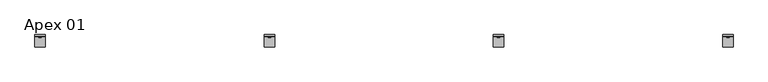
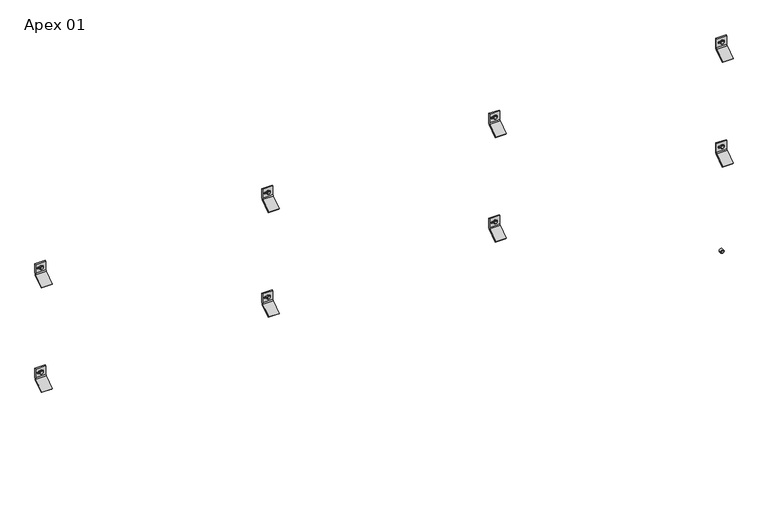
"""IFC4 building model written with IfcOpenShell, lengths in millimetres: plate geometry, Single-Panel-Perforated-Amico_Architectural : Apex 01."""

from ifc_helpers import new_model, si_unit, point, frame, frame_2d, origin, place, context, project, spatial, polyline, circle_curve, trimmed, segment, composite_curve, outline, extrude, source, transform, mapped, element, save
from ifc_brep_helpers import plane_surface, cylinder_surface, revolved_surface, advanced_brep


def apex_01_94d3b953(model_context):
    return source(origin(), model_context, "Body", "SolidModel", [
        extrude(outline(polyline([(1395.4295323, 1252.2820034), (1391.0838197, 1254.7910017), (1391.0838197, 1259.8089983), (1395.4295323, 1262.3179966), (1399.7752448, 1259.8089983), (1399.7752448, 1254.7910017), (1395.4295323, 1252.2820034)])), frame((0.0, -58.7607779, 0.0), z_axis=(0.0, 1.0, 0.0), x_axis=(0.0, 0.0, 1.0)), (0.0, 0.0, 1.0), 11.1357779),
        extrude(outline(composite_curve([segment(trimmed(circle_curve(frame_2d((1395.5228392, 1257.3)), 6.35), [point((1395.5228392, 1263.65))], [point((1395.5228392, 1250.95))], False, "CARTESIAN"), True, "CONTINUOUS"), segment(trimmed(circle_curve(frame_2d((1395.5228392, 1257.3)), 6.35), [point((1395.5228392, 1250.95))], [point((1395.5228392, 1263.65))], False, "CARTESIAN"), True, "CONTINUOUS")], self_intersect=False)), frame((0.0, -57.0817743, 0.0), z_axis=(0.0, 1.0, 0.0), x_axis=(0.0, 0.0, 1.0)), (0.0, 0.0, 1.0), 9.4567743),
        advanced_brep(
        [(1238.25, -47.625, 1378.2802202), (1238.25, -51.2819443, 1370.6181877), (1238.25, -89.5163624, 1343.84616), (1238.25, -92.9330442, 1347.2628418), (1238.25, -54.3526876, 1374.2770983), (1238.25, -52.4002, 1378.2802911), (1238.25, -52.4002, 1412.4729053), (1238.25, -47.625, 1412.4729053), (1276.35, -47.625, 1378.2802202), (1276.35, -47.625, 1412.4729053), (1276.35, -52.4002, 1412.4729053), (1276.35, -52.4002, 1378.2802911), (1276.35, -54.3526876, 1374.2770983), (1276.35, -92.9330442, 1347.2628418), (1276.35, -89.5163624, 1343.84616), (1276.35, -51.2819443, 1370.6181877), (1264.0411889, -52.4002, 1398.4276891), (1264.0411889, -52.4002, 1392.0776891), (1247.8133287, -52.4002, 1392.0776891), (1247.8133287, -52.4002, 1398.4276891), (1264.0411889, -47.625, 1392.0776891), (1264.0411889, -47.625, 1398.4276891), (1247.8133287, -47.625, 1398.4276891), (1247.8133287, -47.625, 1392.0776891)],
        [
            (0, 1, circle_curve(frame((1238.25, -57.4802202, 1378.2802202), z_axis=(-1.0, 0.0, 0.0), x_axis=(0.0, -1.0, 0.0)), 9.8552202)),
            (1, 2),
            (2, 3),
            (3, 4),
            (4, 5, circle_curve(frame((1238.25, -57.4803246, 1378.2802911), z_axis=(1.0, 0.0, 0.0), x_axis=(0.0, -1.0, 0.0)), 5.0801246)),
            (5, 6),
            (6, 7),
            (7, 0),
            (8, 9),
            (9, 10),
            (10, 11),
            (11, 12, circle_curve(frame((1276.35, -57.4803246, 1378.2802911), z_axis=(-1.0, 0.0, 0.0), x_axis=(0.0, -1.0, 0.0)), 5.0801246)),
            (12, 13),
            (13, 14),
            (14, 15),
            (15, 8, circle_curve(frame((1276.35, -57.4802202, 1378.2802202), z_axis=(1.0, 0.0, 0.0), x_axis=(0.0, -1.0, 0.0)), 9.8552202)),
            (4, 12),
            (11, 5),
            (10, 6),
            (16, 17, circle_curve(frame((1264.0411889, -52.4002, 1395.2526891), z_axis=(0.0, 1.0, 0.0), x_axis=(0.0, 0.0, -1.0)), 3.175)),
            (17, 18),
            (18, 19, circle_curve(frame((1247.8133287, -52.4002, 1395.2526891), z_axis=(0.0, 1.0, 0.0), x_axis=(0.0, 0.0, -1.0)), 3.175)),
            (19, 16),
            (9, 7),
            (8, 0),
            (20, 21, circle_curve(frame((1264.0411889, -47.625, 1395.2526891), z_axis=(0.0, -1.0, 0.0), x_axis=(0.0, 0.0, -1.0)), 3.175)),
            (21, 22),
            (22, 23, circle_curve(frame((1247.8133287, -47.625, 1395.2526891), z_axis=(0.0, -1.0, 0.0), x_axis=(0.0, 0.0, -1.0)), 3.175)),
            (23, 20),
            (15, 1),
            (20, 17),
            (16, 21),
            (19, 22),
            (18, 23),
            (14, 2),
            (13, 3),
        ],
        [
            plane_surface(frame((1238.25, -67.3354404, 1378.2802202), z_axis=(-1.0, 0.0, 0.0), x_axis=(0.0, 0.0, 1.0))),
            plane_surface(frame((1276.35, -67.3354404, 1378.2802202), z_axis=(1.0, 0.0, 0.0), x_axis=(0.0, 0.0, -1.0))),
            revolved_surface(polyline([(1276.35, -62.5604492, 1378.2802911), (1238.25, -62.5604492, 1378.2802911)]), (1276.35, -57.4803246, 1378.2802911), (1.0, 0.0, 0.0)),
            plane_surface(frame((1238.25, -52.4002, 1378.2802911), z_axis=(0.0, -1.0, 0.0), x_axis=(1.0, 0.0, 0.0))),
            plane_surface(frame((1238.25, -52.4002, 1412.4729053), z_axis=(0.0, 0.0, 1.0), x_axis=(1.0, 0.0, 0.0))),
            plane_surface(frame((1238.25, -47.625, 1412.4729053), z_axis=(0.0, 1.0, 6.99569853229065e-12), x_axis=(1.0, 0.0, 0.0))),
            cylinder_surface(frame((1276.35, -57.4802202, 1378.2802202), z_axis=(-1.0, 0.0, 0.0), x_axis=(0.0, -1.0, 0.0)), 9.8552202),
            revolved_surface(polyline([(1264.0411889, -52.4002, 1392.0776891), (1264.0411889, -47.625, 1392.0776891)]), (1264.0411889, -25.6669948, 1395.2526891), (0.0, -1.0, 0.0)),
            plane_surface(frame((1264.0411889, -86.677982, 1398.4276891), z_axis=(0.0, 0.0, -1.0), x_axis=(0.0, 1.0, 0.0))),
            revolved_surface(polyline([(1247.8133287, -52.4002, 1392.0776891), (1247.8133287, -47.625, 1392.0776891)]), (1247.8133287, -25.6669948, 1395.2526891), (0.0, -1.0, 0.0)),
            plane_surface(frame((1247.8133287, -86.677982, 1392.0776891), z_axis=(-2.7237720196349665e-11, 0.0, 1.0), x_axis=(0.0, 1.0, 0.0))),
            plane_surface(frame((1238.25, -51.2819443, 1370.6181877), z_axis=(0.0, 0.5735764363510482, -0.8191520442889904), x_axis=(1.0, 0.0, 0.0))),
            plane_surface(frame((1238.25, -89.5163624, 1343.84616), z_axis=(0.0, -0.7071067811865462, -0.7071067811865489), x_axis=(1.0, 0.0, 0.0))),
            plane_surface(frame((1238.25, -92.9330442, 1347.2628418), z_axis=(0.0, -0.5735764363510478, 0.8191520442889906), x_axis=(1.0, 0.0, 0.0))),
        ],
        [
            (0, [[1, 2, 3, 4, 5, 6, 7, 8]]),
            (1, [[9, 10, 11, 12, 13, 14, 15, 16]]),
            (2, [[-5, 17, -12, 18]]),
            (3, [[-6, -18, -11, 19], [20, 21, 22, 23]]),
            (4, [[-7, -19, -10, 24]]),
            (5, [[-8, -24, -9, 25], [26, 27, 28, 29]]),
            (6, [[-1, -25, -16, 30]]),
            (7, [[31, -20, 32, -26]]),
            (8, [[-32, -23, 33, -27]]),
            (9, [[-33, -22, 34, -28]]),
            (10, [[-31, -29, -34, -21]]),
            (11, [[-2, -30, -15, 35]]),
            (12, [[-3, -35, -14, 36]]),
            (13, [[-4, -36, -13, -17]]),
        ],
    ),
        extrude(outline(polyline([(1395.4295323, 414.0820034), (1391.0838197, 416.5910017), (1391.0838197, 421.6089983), (1395.4295323, 424.1179966), (1399.7752448, 421.6089983), (1399.7752448, 416.5910017), (1395.4295323, 414.0820034)])), frame((0.0, -58.7607779, 0.0), z_axis=(0.0, 1.0, 0.0), x_axis=(0.0, 0.0, 1.0)), (0.0, 0.0, 1.0), 11.1357779),
        extrude(outline(composite_curve([segment(trimmed(circle_curve(frame_2d((1395.5228392, 419.1)), 6.35), [point((1395.5228392, 425.45))], [point((1395.5228392, 412.75))], False, "CARTESIAN"), True, "CONTINUOUS"), segment(trimmed(circle_curve(frame_2d((1395.5228392, 419.1)), 6.35), [point((1395.5228392, 412.75))], [point((1395.5228392, 425.45))], False, "CARTESIAN"), True, "CONTINUOUS")], self_intersect=False)), frame((0.0, -57.0817743, 0.0), z_axis=(0.0, 1.0, 0.0), x_axis=(0.0, 0.0, 1.0)), (0.0, 0.0, 1.0), 9.4567743),
        advanced_brep(
        [(400.05, -47.625, 1378.2802202), (400.05, -51.2819443, 1370.6181877), (400.05, -89.5163624, 1343.84616), (400.05, -92.9330442, 1347.2628418), (400.05, -54.3526876, 1374.2770983), (400.05, -52.4002, 1378.2802911), (400.05, -52.4002, 1412.4729053), (400.05, -47.625, 1412.4729053), (438.15, -47.625, 1378.2802202), (438.15, -47.625, 1412.4729053), (438.15, -52.4002, 1412.4729053), (438.15, -52.4002, 1378.2802911), (438.15, -54.3526876, 1374.2770983), (438.15, -92.9330442, 1347.2628418), (438.15, -89.5163624, 1343.84616), (438.15, -51.2819443, 1370.6181877), (425.8411889, -52.4002, 1398.4276891), (425.8411889, -52.4002, 1392.0776891), (409.6133287, -52.4002, 1392.0776891), (409.6133287, -52.4002, 1398.4276891), (425.8411889, -47.625, 1392.0776891), (425.8411889, -47.625, 1398.4276891), (409.6133287, -47.625, 1398.4276891), (409.6133287, -47.625, 1392.0776891)],
        [
            (0, 1, circle_curve(frame((400.05, -57.4802202, 1378.2802202), z_axis=(-1.0, 0.0, 0.0), x_axis=(0.0, -1.0, 0.0)), 9.8552202)),
            (1, 2),
            (2, 3),
            (3, 4),
            (4, 5, circle_curve(frame((400.05, -57.4803246, 1378.2802911), z_axis=(1.0, 0.0, 0.0), x_axis=(0.0, -1.0, 0.0)), 5.0801246)),
            (5, 6),
            (6, 7),
            (7, 0),
            (8, 9),
            (9, 10),
            (10, 11),
            (11, 12, circle_curve(frame((438.15, -57.4803246, 1378.2802911), z_axis=(-1.0, 0.0, 0.0), x_axis=(0.0, -1.0, 0.0)), 5.0801246)),
            (12, 13),
            (13, 14),
            (14, 15),
            (15, 8, circle_curve(frame((438.15, -57.4802202, 1378.2802202), z_axis=(1.0, 0.0, 0.0), x_axis=(0.0, -1.0, 0.0)), 9.8552202)),
            (4, 12),
            (11, 5),
            (10, 6),
            (16, 17, circle_curve(frame((425.8411889, -52.4002, 1395.2526891), z_axis=(0.0, 1.0, 0.0), x_axis=(0.0, 0.0, -1.0)), 3.175)),
            (17, 18),
            (18, 19, circle_curve(frame((409.6133287, -52.4002, 1395.2526891), z_axis=(0.0, 1.0, 0.0), x_axis=(0.0, 0.0, -1.0)), 3.175)),
            (19, 16),
            (9, 7),
            (8, 0),
            (20, 21, circle_curve(frame((425.8411889, -47.625, 1395.2526891), z_axis=(0.0, -1.0, 0.0), x_axis=(0.0, 0.0, -1.0)), 3.175)),
            (21, 22),
            (22, 23, circle_curve(frame((409.6133287, -47.625, 1395.2526891), z_axis=(0.0, -1.0, 0.0), x_axis=(0.0, 0.0, -1.0)), 3.175)),
            (23, 20),
            (15, 1),
            (20, 17),
            (16, 21),
            (19, 22),
            (18, 23),
            (14, 2),
            (13, 3),
        ],
        [
            plane_surface(frame((400.05, -67.3354404, 1378.2802202), z_axis=(-1.0, 0.0, 0.0), x_axis=(0.0, 0.0, 1.0))),
            plane_surface(frame((438.15, -67.3354404, 1378.2802202), z_axis=(1.0, 0.0, 0.0), x_axis=(0.0, 0.0, -1.0))),
            revolved_surface(polyline([(438.15, -62.5604492, 1378.2802911), (400.05, -62.5604492, 1378.2802911)]), (438.15, -57.4803246, 1378.2802911), (1.0, 0.0, 0.0)),
            plane_surface(frame((400.05, -52.4002, 1378.2802911), z_axis=(0.0, -1.0, 0.0), x_axis=(1.0, 0.0, 0.0))),
            plane_surface(frame((400.05, -52.4002, 1412.4729053), z_axis=(0.0, 0.0, 1.0), x_axis=(1.0, 0.0, 0.0))),
            plane_surface(frame((400.05, -47.625, 1412.4729053), z_axis=(0.0, 1.0, 6.99569853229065e-12), x_axis=(1.0, 0.0, 0.0))),
            cylinder_surface(frame((438.15, -57.4802202, 1378.2802202), z_axis=(-1.0, 0.0, 0.0), x_axis=(0.0, -1.0, 0.0)), 9.8552202),
            revolved_surface(polyline([(425.8411889, -52.4002, 1392.0776891), (425.8411889, -47.625, 1392.0776891)]), (425.8411889, -25.6669948, 1395.2526891), (0.0, -1.0, 0.0)),
            plane_surface(frame((425.8411889, -86.677982, 1398.4276891), z_axis=(0.0, 0.0, -1.0), x_axis=(0.0, 1.0, 0.0))),
            revolved_surface(polyline([(409.6133287, -52.4002, 1392.0776891), (409.6133287, -47.625, 1392.0776891)]), (409.6133287, -25.6669948, 1395.2526891), (0.0, -1.0, 0.0)),
            plane_surface(frame((409.6133287, -86.677982, 1392.0776891), z_axis=(-2.7237720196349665e-11, 0.0, 1.0), x_axis=(0.0, 1.0, 0.0))),
            plane_surface(frame((400.05, -51.2819443, 1370.6181877), z_axis=(0.0, 0.5735764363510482, -0.8191520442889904), x_axis=(1.0, 0.0, 0.0))),
            plane_surface(frame((400.05, -89.5163624, 1343.84616), z_axis=(0.0, -0.7071067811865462, -0.7071067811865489), x_axis=(1.0, 0.0, 0.0))),
            plane_surface(frame((400.05, -92.9330442, 1347.2628418), z_axis=(0.0, -0.5735764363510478, 0.8191520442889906), x_axis=(1.0, 0.0, 0.0))),
        ],
        [
            (0, [[1, 2, 3, 4, 5, 6, 7, 8]]),
            (1, [[9, 10, 11, 12, 13, 14, 15, 16]]),
            (2, [[-5, 17, -12, 18]]),
            (3, [[-6, -18, -11, 19], [20, 21, 22, 23]]),
            (4, [[-7, -19, -10, 24]]),
            (5, [[-8, -24, -9, 25], [26, 27, 28, 29]]),
            (6, [[-1, -25, -16, 30]]),
            (7, [[31, -20, 32, -26]]),
            (8, [[-32, -23, 33, -27]]),
            (9, [[-33, -22, 34, -28]]),
            (10, [[-31, -29, -34, -21]]),
            (11, [[-2, -30, -15, 35]]),
            (12, [[-3, -35, -14, 36]]),
            (13, [[-4, -36, -13, -17]]),
        ],
    ),
        extrude(outline(polyline([(1395.4295323, -424.1179966), (1391.0838197, -421.6089983), (1391.0838197, -416.5910017), (1395.4295323, -414.0820034), (1399.7752448, -416.5910017), (1399.7752448, -421.6089983), (1395.4295323, -424.1179966)])), frame((0.0, -58.7607779, 0.0), z_axis=(0.0, 1.0, 0.0), x_axis=(0.0, 0.0, 1.0)), (0.0, 0.0, 1.0), 11.1357779),
        extrude(outline(composite_curve([segment(trimmed(circle_curve(frame_2d((1395.5228392, -419.1)), 6.35), [point((1395.5228392, -412.75))], [point((1395.5228392, -425.45))], False, "CARTESIAN"), True, "CONTINUOUS"), segment(trimmed(circle_curve(frame_2d((1395.5228392, -419.1)), 6.35), [point((1395.5228392, -425.45))], [point((1395.5228392, -412.75))], False, "CARTESIAN"), True, "CONTINUOUS")], self_intersect=False)), frame((0.0, -57.0817743, 0.0), z_axis=(0.0, 1.0, 0.0), x_axis=(0.0, 0.0, 1.0)), (0.0, 0.0, 1.0), 9.4567743),
        advanced_brep(
        [(-438.15, -47.625, 1378.2802202), (-438.15, -51.2819443, 1370.6181877), (-438.15, -89.5163624, 1343.84616), (-438.15, -92.9330442, 1347.2628418), (-438.15, -54.3526876, 1374.2770983), (-438.15, -52.4002, 1378.2802911), (-438.15, -52.4002, 1412.4729053), (-438.15, -47.625, 1412.4729053), (-400.05, -47.625, 1378.2802202), (-400.05, -47.625, 1412.4729053), (-400.05, -52.4002, 1412.4729053), (-400.05, -52.4002, 1378.2802911), (-400.05, -54.3526876, 1374.2770983), (-400.05, -92.9330442, 1347.2628418), (-400.05, -89.5163624, 1343.84616), (-400.05, -51.2819443, 1370.6181877), (-412.3588111, -52.4002, 1398.4276891), (-412.3588111, -52.4002, 1392.0776891), (-428.5866713, -52.4002, 1392.0776891), (-428.5866713, -52.4002, 1398.4276891), (-412.3588111, -47.625, 1392.0776891), (-412.3588111, -47.625, 1398.4276891), (-428.5866713, -47.625, 1398.4276891), (-428.5866713, -47.625, 1392.0776891)],
        [
            (0, 1, circle_curve(frame((-438.15, -57.4802202, 1378.2802202), z_axis=(-1.0, 0.0, 0.0), x_axis=(0.0, -1.0, 0.0)), 9.8552202)),
            (1, 2),
            (2, 3),
            (3, 4),
            (4, 5, circle_curve(frame((-438.15, -57.4803246, 1378.2802911), z_axis=(1.0, 0.0, 0.0), x_axis=(0.0, -1.0, 0.0)), 5.0801246)),
            (5, 6),
            (6, 7),
            (7, 0),
            (8, 9),
            (9, 10),
            (10, 11),
            (11, 12, circle_curve(frame((-400.05, -57.4803246, 1378.2802911), z_axis=(-1.0, 0.0, 0.0), x_axis=(0.0, -1.0, 0.0)), 5.0801246)),
            (12, 13),
            (13, 14),
            (14, 15),
            (15, 8, circle_curve(frame((-400.05, -57.4802202, 1378.2802202), z_axis=(1.0, 0.0, 0.0), x_axis=(0.0, -1.0, 0.0)), 9.8552202)),
            (4, 12),
            (11, 5),
            (10, 6),
            (16, 17, circle_curve(frame((-412.3588111, -52.4002, 1395.2526891), z_axis=(0.0, 1.0, 0.0), x_axis=(0.0, 0.0, -1.0)), 3.175)),
            (17, 18),
            (18, 19, circle_curve(frame((-428.5866713, -52.4002, 1395.2526891), z_axis=(0.0, 1.0, 0.0), x_axis=(0.0, 0.0, -1.0)), 3.175)),
            (19, 16),
            (9, 7),
            (8, 0),
            (20, 21, circle_curve(frame((-412.3588111, -47.625, 1395.2526891), z_axis=(0.0, -1.0, 0.0), x_axis=(0.0, 0.0, -1.0)), 3.175)),
            (21, 22),
            (22, 23, circle_curve(frame((-428.5866713, -47.625, 1395.2526891), z_axis=(0.0, -1.0, 0.0), x_axis=(0.0, 0.0, -1.0)), 3.175)),
            (23, 20),
            (15, 1),
            (20, 17),
            (16, 21),
            (19, 22),
            (18, 23),
            (14, 2),
            (13, 3),
        ],
        [
            plane_surface(frame((-438.15, -67.3354404, 1378.2802202), z_axis=(-1.0, 0.0, 0.0), x_axis=(0.0, 0.0, 1.0))),
            plane_surface(frame((-400.05, -67.3354404, 1378.2802202), z_axis=(1.0, 0.0, 0.0), x_axis=(0.0, 0.0, -1.0))),
            revolved_surface(polyline([(-400.05, -62.5604492, 1378.2802911), (-438.15, -62.5604492, 1378.2802911)]), (-400.05, -57.4803246, 1378.2802911), (1.0, 0.0, 0.0)),
            plane_surface(frame((-438.15, -52.4002, 1378.2802911), z_axis=(0.0, -1.0, 0.0), x_axis=(1.0, 0.0, 0.0))),
            plane_surface(frame((-438.15, -52.4002, 1412.4729053), z_axis=(0.0, 0.0, 1.0), x_axis=(1.0, 0.0, 0.0))),
            plane_surface(frame((-438.15, -47.625, 1412.4729053), z_axis=(0.0, 1.0, 6.99569853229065e-12), x_axis=(1.0, 0.0, 0.0))),
            cylinder_surface(frame((-400.05, -57.4802202, 1378.2802202), z_axis=(-1.0, 0.0, 0.0), x_axis=(0.0, -1.0, 0.0)), 9.8552202),
            revolved_surface(polyline([(-412.3588111, -52.4002, 1392.0776891), (-412.3588111, -47.625, 1392.0776891)]), (-412.3588111, -25.6669948, 1395.2526891), (0.0, -1.0, 0.0)),
            plane_surface(frame((-412.3588111, -86.677982, 1398.4276891), z_axis=(0.0, 0.0, -1.0), x_axis=(0.0, 1.0, 0.0))),
            revolved_surface(polyline([(-428.5866713, -52.4002, 1392.0776891), (-428.5866713, -47.625, 1392.0776891)]), (-428.5866713, -25.6669948, 1395.2526891), (0.0, -1.0, 0.0)),
            plane_surface(frame((-428.5866713, -86.677982, 1392.0776891), z_axis=(-2.7237720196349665e-11, 0.0, 1.0), x_axis=(0.0, 1.0, 0.0))),
            plane_surface(frame((-438.15, -51.2819443, 1370.6181877), z_axis=(0.0, 0.5735764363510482, -0.8191520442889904), x_axis=(1.0, 0.0, 0.0))),
            plane_surface(frame((-438.15, -89.5163624, 1343.84616), z_axis=(0.0, -0.7071067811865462, -0.7071067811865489), x_axis=(1.0, 0.0, 0.0))),
            plane_surface(frame((-438.15, -92.9330442, 1347.2628418), z_axis=(0.0, -0.5735764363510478, 0.8191520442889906), x_axis=(1.0, 0.0, 0.0))),
        ],
        [
            (0, [[1, 2, 3, 4, 5, 6, 7, 8]]),
            (1, [[9, 10, 11, 12, 13, 14, 15, 16]]),
            (2, [[-5, 17, -12, 18]]),
            (3, [[-6, -18, -11, 19], [20, 21, 22, 23]]),
            (4, [[-7, -19, -10, 24]]),
            (5, [[-8, -24, -9, 25], [26, 27, 28, 29]]),
            (6, [[-1, -25, -16, 30]]),
            (7, [[31, -20, 32, -26]]),
            (8, [[-32, -23, 33, -27]]),
            (9, [[-33, -22, 34, -28]]),
            (10, [[-31, -29, -34, -21]]),
            (11, [[-2, -30, -15, 35]]),
            (12, [[-3, -35, -14, 36]]),
            (13, [[-4, -36, -13, -17]]),
        ],
    ),
        extrude(outline(polyline([(1395.4295323, -1262.3179966), (1391.0838197, -1259.8089983), (1391.0838197, -1254.7910017), (1395.4295323, -1252.2820034), (1399.7752448, -1254.7910017), (1399.7752448, -1259.8089983), (1395.4295323, -1262.3179966)])), frame((0.0, -58.7607779, 0.0), z_axis=(0.0, 1.0, 0.0), x_axis=(0.0, 0.0, 1.0)), (0.0, 0.0, 1.0), 11.1357779),
        extrude(outline(composite_curve([segment(trimmed(circle_curve(frame_2d((1395.5228392, -1257.3)), 6.35), [point((1395.5228392, -1250.95))], [point((1395.5228392, -1263.65))], False, "CARTESIAN"), True, "CONTINUOUS"), segment(trimmed(circle_curve(frame_2d((1395.5228392, -1257.3)), 6.35), [point((1395.5228392, -1263.65))], [point((1395.5228392, -1250.95))], False, "CARTESIAN"), True, "CONTINUOUS")], self_intersect=False)), frame((0.0, -57.0817743, 0.0), z_axis=(0.0, 1.0, 0.0), x_axis=(0.0, 0.0, 1.0)), (0.0, 0.0, 1.0), 9.4567743),
        advanced_brep(
        [(-1276.35, -47.625, 1378.2802202), (-1276.35, -51.2819443, 1370.6181877), (-1276.35, -89.5163624, 1343.84616), (-1276.35, -92.9330442, 1347.2628418), (-1276.35, -54.3526876, 1374.2770983), (-1276.35, -52.4002, 1378.2802911), (-1276.35, -52.4002, 1412.4729053), (-1276.35, -47.625, 1412.4729053), (-1238.25, -47.625, 1378.2802202), (-1238.25, -47.625, 1412.4729053), (-1238.25, -52.4002, 1412.4729053), (-1238.25, -52.4002, 1378.2802911), (-1238.25, -54.3526876, 1374.2770983), (-1238.25, -92.9330442, 1347.2628418), (-1238.25, -89.5163624, 1343.84616), (-1238.25, -51.2819443, 1370.6181877), (-1250.5588111, -52.4002, 1398.4276891), (-1250.5588111, -52.4002, 1392.0776891), (-1266.7866713, -52.4002, 1392.0776891), (-1266.7866713, -52.4002, 1398.4276891), (-1250.5588111, -47.625, 1392.0776891), (-1250.5588111, -47.625, 1398.4276891), (-1266.7866713, -47.625, 1398.4276891), (-1266.7866713, -47.625, 1392.0776891)],
        [
            (0, 1, circle_curve(frame((-1276.35, -57.4802202, 1378.2802202), z_axis=(-1.0, 0.0, 0.0), x_axis=(0.0, -1.0, 0.0)), 9.8552202)),
            (1, 2),
            (2, 3),
            (3, 4),
            (4, 5, circle_curve(frame((-1276.35, -57.4803246, 1378.2802911), z_axis=(1.0, 0.0, 0.0), x_axis=(0.0, -1.0, 0.0)), 5.0801246)),
            (5, 6),
            (6, 7),
            (7, 0),
            (8, 9),
            (9, 10),
            (10, 11),
            (11, 12, circle_curve(frame((-1238.25, -57.4803246, 1378.2802911), z_axis=(-1.0, 0.0, 0.0), x_axis=(0.0, -1.0, 0.0)), 5.0801246)),
            (12, 13),
            (13, 14),
            (14, 15),
            (15, 8, circle_curve(frame((-1238.25, -57.4802202, 1378.2802202), z_axis=(1.0, 0.0, 0.0), x_axis=(0.0, -1.0, 0.0)), 9.8552202)),
            (4, 12),
            (11, 5),
            (10, 6),
            (16, 17, circle_curve(frame((-1250.5588111, -52.4002, 1395.2526891), z_axis=(0.0, 1.0, 0.0), x_axis=(0.0, 0.0, -1.0)), 3.175)),
            (17, 18),
            (18, 19, circle_curve(frame((-1266.7866713, -52.4002, 1395.2526891), z_axis=(0.0, 1.0, 0.0), x_axis=(0.0, 0.0, -1.0)), 3.175)),
            (19, 16),
            (9, 7),
            (8, 0),
            (20, 21, circle_curve(frame((-1250.5588111, -47.625, 1395.2526891), z_axis=(0.0, -1.0, 0.0), x_axis=(0.0, 0.0, -1.0)), 3.175)),
            (21, 22),
            (22, 23, circle_curve(frame((-1266.7866713, -47.625, 1395.2526891), z_axis=(0.0, -1.0, 0.0), x_axis=(0.0, 0.0, -1.0)), 3.175)),
            (23, 20),
            (15, 1),
            (20, 17),
            (16, 21),
            (19, 22),
            (18, 23),
            (14, 2),
            (13, 3),
        ],
        [
            plane_surface(frame((-1276.35, -67.3354404, 1378.2802202), z_axis=(-1.0, 0.0, 0.0), x_axis=(0.0, 0.0, 1.0))),
            plane_surface(frame((-1238.25, -67.3354404, 1378.2802202), z_axis=(1.0, 0.0, 0.0), x_axis=(0.0, 0.0, -1.0))),
            revolved_surface(polyline([(-1238.25, -62.5604492, 1378.2802911), (-1276.35, -62.5604492, 1378.2802911)]), (-1238.25, -57.4803246, 1378.2802911), (1.0, 0.0, 0.0)),
            plane_surface(frame((-1276.35, -52.4002, 1378.2802911), z_axis=(0.0, -1.0, 0.0), x_axis=(1.0, 0.0, 0.0))),
            plane_surface(frame((-1276.35, -52.4002, 1412.4729053), z_axis=(0.0, 0.0, 1.0), x_axis=(1.0, 0.0, 0.0))),
            plane_surface(frame((-1276.35, -47.625, 1412.4729053), z_axis=(0.0, 1.0, 6.99569853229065e-12), x_axis=(1.0, 0.0, 0.0))),
            cylinder_surface(frame((-1238.25, -57.4802202, 1378.2802202), z_axis=(-1.0, 0.0, 0.0), x_axis=(0.0, -1.0, 0.0)), 9.8552202),
            revolved_surface(polyline([(-1250.5588111, -52.4002, 1392.0776891), (-1250.5588111, -47.625, 1392.0776891)]), (-1250.5588111, -25.6669948, 1395.2526891), (0.0, -1.0, 0.0)),
            plane_surface(frame((-1250.5588111, -86.677982, 1398.4276891), z_axis=(0.0, 0.0, -1.0), x_axis=(0.0, 1.0, 0.0))),
            revolved_surface(polyline([(-1266.7866713, -52.4002, 1392.0776891), (-1266.7866713, -47.625, 1392.0776891)]), (-1266.7866713, -25.6669948, 1395.2526891), (0.0, -1.0, 0.0)),
            plane_surface(frame((-1266.7866713, -86.677982, 1392.0776891), z_axis=(-2.7237720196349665e-11, 0.0, 1.0), x_axis=(0.0, 1.0, 0.0))),
            plane_surface(frame((-1276.35, -51.2819443, 1370.6181877), z_axis=(0.0, 0.5735764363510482, -0.8191520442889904), x_axis=(1.0, 0.0, 0.0))),
            plane_surface(frame((-1276.35, -89.5163624, 1343.84616), z_axis=(0.0, -0.7071067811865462, -0.7071067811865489), x_axis=(1.0, 0.0, 0.0))),
            plane_surface(frame((-1276.35, -92.9330442, 1347.2628418), z_axis=(0.0, -0.5735764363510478, 0.8191520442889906), x_axis=(1.0, 0.0, 0.0))),
        ],
        [
            (0, [[1, 2, 3, 4, 5, 6, 7, 8]]),
            (1, [[9, 10, 11, 12, 13, 14, 15, 16]]),
            (2, [[-5, 17, -12, 18]]),
            (3, [[-6, -18, -11, 19], [20, 21, 22, 23]]),
            (4, [[-7, -19, -10, 24]]),
            (5, [[-8, -24, -9, 25], [26, 27, 28, 29]]),
            (6, [[-1, -25, -16, 30]]),
            (7, [[31, -20, 32, -26]]),
            (8, [[-32, -23, 33, -27]]),
            (9, [[-33, -22, 34, -28]]),
            (10, [[-31, -29, -34, -21]]),
            (11, [[-2, -30, -15, 35]]),
            (12, [[-3, -35, -14, 36]]),
            (13, [[-4, -36, -13, -17]]),
        ],
    ),
        extrude(outline(polyline([(986.9128656, 1252.2820034), (982.5671531, 1254.7910017), (982.5671531, 1259.8089983), (986.9128656, 1262.3179966), (991.2585781, 1259.8089983), (991.2585781, 1254.7910017), (986.9128656, 1252.2820034)])), frame((0.0, -58.7607779, 0.0), z_axis=(0.0, 1.0, 0.0), x_axis=(0.0, 0.0, 1.0)), (0.0, 0.0, 1.0), 11.1357779),
        extrude(outline(composite_curve([segment(trimmed(circle_curve(frame_2d((987.0061726, 1257.3)), 6.35), [point((987.0061726, 1263.65))], [point((987.0061726, 1250.95))], False, "CARTESIAN"), True, "CONTINUOUS"), segment(trimmed(circle_curve(frame_2d((987.0061726, 1257.3)), 6.35), [point((987.0061726, 1250.95))], [point((987.0061726, 1263.65))], False, "CARTESIAN"), True, "CONTINUOUS")], self_intersect=False)), frame((0.0, -57.0817743, 0.0), z_axis=(0.0, 1.0, 0.0), x_axis=(0.0, 0.0, 1.0)), (0.0, 0.0, 1.0), 9.4567743),
        advanced_brep(
        [(1238.25, -47.625, 969.7635535), (1238.25, -51.2819443, 962.1015211), (1238.25, -89.5163624, 935.3294933), (1238.25, -92.9330442, 938.7461751), (1238.25, -54.3526876, 965.7604316), (1238.25, -52.4002, 969.7636244), (1238.25, -52.4002, 1003.9562386), (1238.25, -47.625, 1003.9562386), (1276.35, -47.625, 969.7635535), (1276.35, -47.625, 1003.9562386), (1276.35, -52.4002, 1003.9562386), (1276.35, -52.4002, 969.7636244), (1276.35, -54.3526876, 965.7604316), (1276.35, -92.9330442, 938.7461751), (1276.35, -89.5163624, 935.3294933), (1276.35, -51.2819443, 962.1015211), (1264.0411889, -52.4002, 989.9110224), (1264.0411889, -52.4002, 983.5610224), (1247.8133287, -52.4002, 983.5610224), (1247.8133287, -52.4002, 989.9110224), (1264.0411889, -47.625, 983.5610224), (1264.0411889, -47.625, 989.9110224), (1247.8133287, -47.625, 989.9110224), (1247.8133287, -47.625, 983.5610224)],
        [
            (0, 1, circle_curve(frame((1238.25, -57.4802202, 969.7635535), z_axis=(-1.0, 0.0, 0.0), x_axis=(0.0, -1.0, 0.0)), 9.8552202)),
            (1, 2),
            (2, 3),
            (3, 4),
            (4, 5, circle_curve(frame((1238.25, -57.4803246, 969.7636244), z_axis=(1.0, 0.0, 0.0), x_axis=(0.0, -1.0, 0.0)), 5.0801246)),
            (5, 6),
            (6, 7),
            (7, 0),
            (8, 9),
            (9, 10),
            (10, 11),
            (11, 12, circle_curve(frame((1276.35, -57.4803246, 969.7636244), z_axis=(-1.0, 0.0, 0.0), x_axis=(0.0, -1.0, 0.0)), 5.0801246)),
            (12, 13),
            (13, 14),
            (14, 15),
            (15, 8, circle_curve(frame((1276.35, -57.4802202, 969.7635535), z_axis=(1.0, 0.0, 0.0), x_axis=(0.0, -1.0, 0.0)), 9.8552202)),
            (4, 12),
            (11, 5),
            (10, 6),
            (16, 17, circle_curve(frame((1264.0411889, -52.4002, 986.7360224), z_axis=(0.0, 1.0, 0.0), x_axis=(0.0, 0.0, -1.0)), 3.175)),
            (17, 18),
            (18, 19, circle_curve(frame((1247.8133287, -52.4002, 986.7360224), z_axis=(0.0, 1.0, 0.0), x_axis=(0.0, 0.0, -1.0)), 3.175)),
            (19, 16),
            (9, 7),
            (8, 0),
            (20, 21, circle_curve(frame((1264.0411889, -47.625, 986.7360224), z_axis=(0.0, -1.0, 0.0), x_axis=(0.0, 0.0, -1.0)), 3.175)),
            (21, 22),
            (22, 23, circle_curve(frame((1247.8133287, -47.625, 986.7360224), z_axis=(0.0, -1.0, 0.0), x_axis=(0.0, 0.0, -1.0)), 3.175)),
            (23, 20),
            (15, 1),
            (20, 17),
            (16, 21),
            (19, 22),
            (18, 23),
            (14, 2),
            (13, 3),
        ],
        [
            plane_surface(frame((1238.25, -67.3354404, 969.7635535), z_axis=(-1.0, 0.0, 0.0), x_axis=(0.0, 0.0, 1.0))),
            plane_surface(frame((1276.35, -67.3354404, 969.7635535), z_axis=(1.0, 0.0, 0.0), x_axis=(0.0, 0.0, -1.0))),
            revolved_surface(polyline([(1276.35, -62.5604492, 969.7636244), (1238.25, -62.5604492, 969.7636244)]), (1276.35, -57.4803246, 969.7636244), (1.0, 0.0, 0.0)),
            plane_surface(frame((1238.25, -52.4002, 969.7636244), z_axis=(0.0, -1.0, 0.0), x_axis=(1.0, 0.0, 0.0))),
            plane_surface(frame((1238.25, -52.4002, 1003.9562386), z_axis=(0.0, 0.0, 1.0), x_axis=(1.0, 0.0, 0.0))),
            plane_surface(frame((1238.25, -47.625, 1003.9562386), z_axis=(0.0, 1.0, 6.99569853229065e-12), x_axis=(1.0, 0.0, 0.0))),
            cylinder_surface(frame((1276.35, -57.4802202, 969.7635535), z_axis=(-1.0, 0.0, 0.0), x_axis=(0.0, -1.0, 0.0)), 9.8552202),
            revolved_surface(polyline([(1264.0411889, -52.4002, 983.5610224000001), (1264.0411889, -47.625, 983.5610224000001)]), (1264.0411889, -25.6669948, 986.7360224), (0.0, -1.0, 0.0)),
            plane_surface(frame((1264.0411889, -86.677982, 989.9110224), z_axis=(0.0, 0.0, -1.0), x_axis=(0.0, 1.0, 0.0))),
            revolved_surface(polyline([(1247.8133287, -52.4002, 983.5610224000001), (1247.8133287, -47.625, 983.5610224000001)]), (1247.8133287, -25.6669948, 986.7360224), (0.0, -1.0, 0.0)),
            plane_surface(frame((1247.8133287, -86.677982, 983.5610224), z_axis=(-2.7237766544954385e-11, 0.0, 1.0), x_axis=(0.0, 1.0, 0.0))),
            plane_surface(frame((1238.25, -51.2819443, 962.1015211), z_axis=(0.0, 0.5735764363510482, -0.8191520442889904), x_axis=(1.0, 0.0, 0.0))),
            plane_surface(frame((1238.25, -89.5163624, 935.3294933), z_axis=(0.0, -0.7071067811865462, -0.7071067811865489), x_axis=(1.0, 0.0, 0.0))),
            plane_surface(frame((1238.25, -92.9330442, 938.7461751), z_axis=(0.0, -0.5735764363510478, 0.8191520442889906), x_axis=(1.0, 0.0, 0.0))),
        ],
        [
            (0, [[1, 2, 3, 4, 5, 6, 7, 8]]),
            (1, [[9, 10, 11, 12, 13, 14, 15, 16]]),
            (2, [[-5, 17, -12, 18]]),
            (3, [[-6, -18, -11, 19], [20, 21, 22, 23]]),
            (4, [[-7, -19, -10, 24]]),
            (5, [[-8, -24, -9, 25], [26, 27, 28, 29]]),
            (6, [[-1, -25, -16, 30]]),
            (7, [[31, -20, 32, -26]]),
            (8, [[-32, -23, 33, -27]]),
            (9, [[-33, -22, 34, -28]]),
            (10, [[-31, -29, -34, -21]]),
            (11, [[-2, -30, -15, 35]]),
            (12, [[-3, -35, -14, 36]]),
            (13, [[-4, -36, -13, -17]]),
        ],
    ),
        extrude(outline(polyline([(986.9128656, 414.0820034), (982.5671531, 416.5910017), (982.5671531, 421.6089983), (986.9128656, 424.1179966), (991.2585781, 421.6089983), (991.2585781, 416.5910017), (986.9128656, 414.0820034)])), frame((0.0, -58.7607779, 0.0), z_axis=(0.0, 1.0, 0.0), x_axis=(0.0, 0.0, 1.0)), (0.0, 0.0, 1.0), 11.1357779),
        extrude(outline(composite_curve([segment(trimmed(circle_curve(frame_2d((987.0061726, 419.1)), 6.35), [point((987.0061726, 425.45))], [point((987.0061726, 412.75))], False, "CARTESIAN"), True, "CONTINUOUS"), segment(trimmed(circle_curve(frame_2d((987.0061726, 419.1)), 6.35), [point((987.0061726, 412.75))], [point((987.0061726, 425.45))], False, "CARTESIAN"), True, "CONTINUOUS")], self_intersect=False)), frame((0.0, -57.0817743, 0.0), z_axis=(0.0, 1.0, 0.0), x_axis=(0.0, 0.0, 1.0)), (0.0, 0.0, 1.0), 9.4567743),
        advanced_brep(
        [(400.05, -47.625, 969.7635535), (400.05, -51.2819443, 962.1015211), (400.05, -89.5163624, 935.3294933), (400.05, -92.9330442, 938.7461751), (400.05, -54.3526876, 965.7604316), (400.05, -52.4002, 969.7636244), (400.05, -52.4002, 1003.9562386), (400.05, -47.625, 1003.9562386), (438.15, -47.625, 969.7635535), (438.15, -47.625, 1003.9562386), (438.15, -52.4002, 1003.9562386), (438.15, -52.4002, 969.7636244), (438.15, -54.3526876, 965.7604316), (438.15, -92.9330442, 938.7461751), (438.15, -89.5163624, 935.3294933), (438.15, -51.2819443, 962.1015211), (425.8411889, -52.4002, 989.9110224), (425.8411889, -52.4002, 983.5610224), (409.6133287, -52.4002, 983.5610224), (409.6133287, -52.4002, 989.9110224), (425.8411889, -47.625, 983.5610224), (425.8411889, -47.625, 989.9110224), (409.6133287, -47.625, 989.9110224), (409.6133287, -47.625, 983.5610224)],
        [
            (0, 1, circle_curve(frame((400.05, -57.4802202, 969.7635535), z_axis=(-1.0, 0.0, 0.0), x_axis=(0.0, -1.0, 0.0)), 9.8552202)),
            (1, 2),
            (2, 3),
            (3, 4),
            (4, 5, circle_curve(frame((400.05, -57.4803246, 969.7636244), z_axis=(1.0, 0.0, 0.0), x_axis=(0.0, -1.0, 0.0)), 5.0801246)),
            (5, 6),
            (6, 7),
            (7, 0),
            (8, 9),
            (9, 10),
            (10, 11),
            (11, 12, circle_curve(frame((438.15, -57.4803246, 969.7636244), z_axis=(-1.0, 0.0, 0.0), x_axis=(0.0, -1.0, 0.0)), 5.0801246)),
            (12, 13),
            (13, 14),
            (14, 15),
            (15, 8, circle_curve(frame((438.15, -57.4802202, 969.7635535), z_axis=(1.0, 0.0, 0.0), x_axis=(0.0, -1.0, 0.0)), 9.8552202)),
            (4, 12),
            (11, 5),
            (10, 6),
            (16, 17, circle_curve(frame((425.8411889, -52.4002, 986.7360224), z_axis=(0.0, 1.0, 0.0), x_axis=(0.0, 0.0, -1.0)), 3.175)),
            (17, 18),
            (18, 19, circle_curve(frame((409.6133287, -52.4002, 986.7360224), z_axis=(0.0, 1.0, 0.0), x_axis=(0.0, 0.0, -1.0)), 3.175)),
            (19, 16),
            (9, 7),
            (8, 0),
            (20, 21, circle_curve(frame((425.8411889, -47.625, 986.7360224), z_axis=(0.0, -1.0, 0.0), x_axis=(0.0, 0.0, -1.0)), 3.175)),
            (21, 22),
            (22, 23, circle_curve(frame((409.6133287, -47.625, 986.7360224), z_axis=(0.0, -1.0, 0.0), x_axis=(0.0, 0.0, -1.0)), 3.175)),
            (23, 20),
            (15, 1),
            (20, 17),
            (16, 21),
            (19, 22),
            (18, 23),
            (14, 2),
            (13, 3),
        ],
        [
            plane_surface(frame((400.05, -67.3354404, 969.7635535), z_axis=(-1.0, 0.0, 0.0), x_axis=(0.0, 0.0, 1.0))),
            plane_surface(frame((438.15, -67.3354404, 969.7635535), z_axis=(1.0, 0.0, 0.0), x_axis=(0.0, 0.0, -1.0))),
            revolved_surface(polyline([(438.15, -62.5604492, 969.7636244), (400.05, -62.5604492, 969.7636244)]), (438.15, -57.4803246, 969.7636244), (1.0, 0.0, 0.0)),
            plane_surface(frame((400.05, -52.4002, 969.7636244), z_axis=(0.0, -1.0, 0.0), x_axis=(1.0, 0.0, 0.0))),
            plane_surface(frame((400.05, -52.4002, 1003.9562386), z_axis=(0.0, 0.0, 1.0), x_axis=(1.0, 0.0, 0.0))),
            plane_surface(frame((400.05, -47.625, 1003.9562386), z_axis=(0.0, 1.0, 6.99569853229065e-12), x_axis=(1.0, 0.0, 0.0))),
            cylinder_surface(frame((438.15, -57.4802202, 969.7635535), z_axis=(-1.0, 0.0, 0.0), x_axis=(0.0, -1.0, 0.0)), 9.8552202),
            revolved_surface(polyline([(425.8411889, -52.4002, 983.5610224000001), (425.8411889, -47.625, 983.5610224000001)]), (425.8411889, -25.6669948, 986.7360224), (0.0, -1.0, 0.0)),
            plane_surface(frame((425.8411889, -86.677982, 989.9110224), z_axis=(0.0, 0.0, -1.0), x_axis=(0.0, 1.0, 0.0))),
            revolved_surface(polyline([(409.6133287, -52.4002, 983.5610224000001), (409.6133287, -47.625, 983.5610224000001)]), (409.6133287, -25.6669948, 986.7360224), (0.0, -1.0, 0.0)),
            plane_surface(frame((409.6133287, -86.677982, 983.5610224), z_axis=(-2.7237766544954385e-11, 0.0, 1.0), x_axis=(0.0, 1.0, 0.0))),
            plane_surface(frame((400.05, -51.2819443, 962.1015211), z_axis=(0.0, 0.5735764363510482, -0.8191520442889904), x_axis=(1.0, 0.0, 0.0))),
            plane_surface(frame((400.05, -89.5163624, 935.3294933), z_axis=(0.0, -0.7071067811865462, -0.7071067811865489), x_axis=(1.0, 0.0, 0.0))),
            plane_surface(frame((400.05, -92.9330442, 938.7461751), z_axis=(0.0, -0.5735764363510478, 0.8191520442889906), x_axis=(1.0, 0.0, 0.0))),
        ],
        [
            (0, [[1, 2, 3, 4, 5, 6, 7, 8]]),
            (1, [[9, 10, 11, 12, 13, 14, 15, 16]]),
            (2, [[-5, 17, -12, 18]]),
            (3, [[-6, -18, -11, 19], [20, 21, 22, 23]]),
            (4, [[-7, -19, -10, 24]]),
            (5, [[-8, -24, -9, 25], [26, 27, 28, 29]]),
            (6, [[-1, -25, -16, 30]]),
            (7, [[31, -20, 32, -26]]),
            (8, [[-32, -23, 33, -27]]),
            (9, [[-33, -22, 34, -28]]),
            (10, [[-31, -29, -34, -21]]),
            (11, [[-2, -30, -15, 35]]),
            (12, [[-3, -35, -14, 36]]),
            (13, [[-4, -36, -13, -17]]),
        ],
    ),
        extrude(outline(polyline([(986.9128656, -424.1179966), (982.5671531, -421.6089983), (982.5671531, -416.5910017), (986.9128656, -414.0820034), (991.2585781, -416.5910017), (991.2585781, -421.6089983), (986.9128656, -424.1179966)])), frame((0.0, -58.7607779, 0.0), z_axis=(0.0, 1.0, 0.0), x_axis=(0.0, 0.0, 1.0)), (0.0, 0.0, 1.0), 11.1357779),
        extrude(outline(composite_curve([segment(trimmed(circle_curve(frame_2d((987.0061726, -419.1)), 6.35), [point((987.0061726, -412.75))], [point((987.0061726, -425.45))], False, "CARTESIAN"), True, "CONTINUOUS"), segment(trimmed(circle_curve(frame_2d((987.0061726, -419.1)), 6.35), [point((987.0061726, -425.45))], [point((987.0061726, -412.75))], False, "CARTESIAN"), True, "CONTINUOUS")], self_intersect=False)), frame((0.0, -57.0817743, 0.0), z_axis=(0.0, 1.0, 0.0), x_axis=(0.0, 0.0, 1.0)), (0.0, 0.0, 1.0), 9.4567743),
        advanced_brep(
        [(-438.15, -47.625, 969.7635535), (-438.15, -51.2819443, 962.1015211), (-438.15, -89.5163624, 935.3294933), (-438.15, -92.9330442, 938.7461751), (-438.15, -54.3526876, 965.7604316), (-438.15, -52.4002, 969.7636244), (-438.15, -52.4002, 1003.9562386), (-438.15, -47.625, 1003.9562386), (-400.05, -47.625, 969.7635535), (-400.05, -47.625, 1003.9562386), (-400.05, -52.4002, 1003.9562386), (-400.05, -52.4002, 969.7636244), (-400.05, -54.3526876, 965.7604316), (-400.05, -92.9330442, 938.7461751), (-400.05, -89.5163624, 935.3294933), (-400.05, -51.2819443, 962.1015211), (-412.3588111, -52.4002, 989.9110224), (-412.3588111, -52.4002, 983.5610224), (-428.5866713, -52.4002, 983.5610224), (-428.5866713, -52.4002, 989.9110224), (-412.3588111, -47.625, 983.5610224), (-412.3588111, -47.625, 989.9110224), (-428.5866713, -47.625, 989.9110224), (-428.5866713, -47.625, 983.5610224)],
        [
            (0, 1, circle_curve(frame((-438.15, -57.4802202, 969.7635535), z_axis=(-1.0, 0.0, 0.0), x_axis=(0.0, -1.0, 0.0)), 9.8552202)),
            (1, 2),
            (2, 3),
            (3, 4),
            (4, 5, circle_curve(frame((-438.15, -57.4803246, 969.7636244), z_axis=(1.0, 0.0, 0.0), x_axis=(0.0, -1.0, 0.0)), 5.0801246)),
            (5, 6),
            (6, 7),
            (7, 0),
            (8, 9),
            (9, 10),
            (10, 11),
            (11, 12, circle_curve(frame((-400.05, -57.4803246, 969.7636244), z_axis=(-1.0, 0.0, 0.0), x_axis=(0.0, -1.0, 0.0)), 5.0801246)),
            (12, 13),
            (13, 14),
            (14, 15),
            (15, 8, circle_curve(frame((-400.05, -57.4802202, 969.7635535), z_axis=(1.0, 0.0, 0.0), x_axis=(0.0, -1.0, 0.0)), 9.8552202)),
            (4, 12),
            (11, 5),
            (10, 6),
            (16, 17, circle_curve(frame((-412.3588111, -52.4002, 986.7360224), z_axis=(0.0, 1.0, 0.0), x_axis=(0.0, 0.0, -1.0)), 3.175)),
            (17, 18),
            (18, 19, circle_curve(frame((-428.5866713, -52.4002, 986.7360224), z_axis=(0.0, 1.0, 0.0), x_axis=(0.0, 0.0, -1.0)), 3.175)),
            (19, 16),
            (9, 7),
            (8, 0),
            (20, 21, circle_curve(frame((-412.3588111, -47.625, 986.7360224), z_axis=(0.0, -1.0, 0.0), x_axis=(0.0, 0.0, -1.0)), 3.175)),
            (21, 22),
            (22, 23, circle_curve(frame((-428.5866713, -47.625, 986.7360224), z_axis=(0.0, -1.0, 0.0), x_axis=(0.0, 0.0, -1.0)), 3.175)),
            (23, 20),
            (15, 1),
            (20, 17),
            (16, 21),
            (19, 22),
            (18, 23),
            (14, 2),
            (13, 3),
        ],
        [
            plane_surface(frame((-438.15, -67.3354404, 969.7635535), z_axis=(-1.0, 0.0, 0.0), x_axis=(0.0, 0.0, 1.0))),
            plane_surface(frame((-400.05, -67.3354404, 969.7635535), z_axis=(1.0, 0.0, 0.0), x_axis=(0.0, 0.0, -1.0))),
            revolved_surface(polyline([(-400.05, -62.5604492, 969.7636244), (-438.15, -62.5604492, 969.7636244)]), (-400.05, -57.4803246, 969.7636244), (1.0, 0.0, 0.0)),
            plane_surface(frame((-438.15, -52.4002, 969.7636244), z_axis=(0.0, -1.0, 0.0), x_axis=(1.0, 0.0, 0.0))),
            plane_surface(frame((-438.15, -52.4002, 1003.9562386), z_axis=(0.0, 0.0, 1.0), x_axis=(1.0, 0.0, 0.0))),
            plane_surface(frame((-438.15, -47.625, 1003.9562386), z_axis=(0.0, 1.0, 6.99569853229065e-12), x_axis=(1.0, 0.0, 0.0))),
            cylinder_surface(frame((-400.05, -57.4802202, 969.7635535), z_axis=(-1.0, 0.0, 0.0), x_axis=(0.0, -1.0, 0.0)), 9.8552202),
            revolved_surface(polyline([(-412.3588111, -52.4002, 983.5610224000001), (-412.3588111, -47.625, 983.5610224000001)]), (-412.3588111, -25.6669948, 986.7360224), (0.0, -1.0, 0.0)),
            plane_surface(frame((-412.3588111, -86.677982, 989.9110224), z_axis=(0.0, 0.0, -1.0), x_axis=(0.0, 1.0, 0.0))),
            revolved_surface(polyline([(-428.5866713, -52.4002, 983.5610224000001), (-428.5866713, -47.625, 983.5610224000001)]), (-428.5866713, -25.6669948, 986.7360224), (0.0, -1.0, 0.0)),
            plane_surface(frame((-428.5866713, -86.677982, 983.5610224), z_axis=(-2.7237766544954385e-11, 0.0, 1.0), x_axis=(0.0, 1.0, 0.0))),
            plane_surface(frame((-438.15, -51.2819443, 962.1015211), z_axis=(0.0, 0.5735764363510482, -0.8191520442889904), x_axis=(1.0, 0.0, 0.0))),
            plane_surface(frame((-438.15, -89.5163624, 935.3294933), z_axis=(0.0, -0.7071067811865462, -0.7071067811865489), x_axis=(1.0, 0.0, 0.0))),
            plane_surface(frame((-438.15, -92.9330442, 938.7461751), z_axis=(0.0, -0.5735764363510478, 0.8191520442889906), x_axis=(1.0, 0.0, 0.0))),
        ],
        [
            (0, [[1, 2, 3, 4, 5, 6, 7, 8]]),
            (1, [[9, 10, 11, 12, 13, 14, 15, 16]]),
            (2, [[-5, 17, -12, 18]]),
            (3, [[-6, -18, -11, 19], [20, 21, 22, 23]]),
            (4, [[-7, -19, -10, 24]]),
            (5, [[-8, -24, -9, 25], [26, 27, 28, 29]]),
            (6, [[-1, -25, -16, 30]]),
            (7, [[31, -20, 32, -26]]),
            (8, [[-32, -23, 33, -27]]),
            (9, [[-33, -22, 34, -28]]),
            (10, [[-31, -29, -34, -21]]),
            (11, [[-2, -30, -15, 35]]),
            (12, [[-3, -35, -14, 36]]),
            (13, [[-4, -36, -13, -17]]),
        ],
    ),
        extrude(outline(polyline([(986.9128656, -1262.3179966), (982.5671531, -1259.8089983), (982.5671531, -1254.7910017), (986.9128656, -1252.2820034), (991.2585781, -1254.7910017), (991.2585781, -1259.8089983), (986.9128656, -1262.3179966)])), frame((0.0, -58.7607779, 0.0), z_axis=(0.0, 1.0, 0.0), x_axis=(0.0, 0.0, 1.0)), (0.0, 0.0, 1.0), 11.1357779),
        extrude(outline(composite_curve([segment(trimmed(circle_curve(frame_2d((987.0061726, -1257.3)), 6.35), [point((987.0061726, -1250.95))], [point((987.0061726, -1263.65))], False, "CARTESIAN"), True, "CONTINUOUS"), segment(trimmed(circle_curve(frame_2d((987.0061726, -1257.3)), 6.35), [point((987.0061726, -1263.65))], [point((987.0061726, -1250.95))], False, "CARTESIAN"), True, "CONTINUOUS")], self_intersect=False)), frame((0.0, -57.0817743, 0.0), z_axis=(0.0, 1.0, 0.0), x_axis=(0.0, 0.0, 1.0)), (0.0, 0.0, 1.0), 9.4567743),
        advanced_brep(
        [(-1276.35, -47.625, 969.7635535), (-1276.35, -51.2819443, 962.1015211), (-1276.35, -89.5163624, 935.3294933), (-1276.35, -92.9330442, 938.7461751), (-1276.35, -54.3526876, 965.7604316), (-1276.35, -52.4002, 969.7636244), (-1276.35, -52.4002, 1003.9562386), (-1276.35, -47.625, 1003.9562386), (-1238.25, -47.625, 969.7635535), (-1238.25, -47.625, 1003.9562386), (-1238.25, -52.4002, 1003.9562386), (-1238.25, -52.4002, 969.7636244), (-1238.25, -54.3526876, 965.7604316), (-1238.25, -92.9330442, 938.7461751), (-1238.25, -89.5163624, 935.3294933), (-1238.25, -51.2819443, 962.1015211), (-1250.5588111, -52.4002, 989.9110224), (-1250.5588111, -52.4002, 983.5610224), (-1266.7866713, -52.4002, 983.5610224), (-1266.7866713, -52.4002, 989.9110224), (-1250.5588111, -47.625, 983.5610224), (-1250.5588111, -47.625, 989.9110224), (-1266.7866713, -47.625, 989.9110224), (-1266.7866713, -47.625, 983.5610224)],
        [
            (0, 1, circle_curve(frame((-1276.35, -57.4802202, 969.7635535), z_axis=(-1.0, 0.0, 0.0), x_axis=(0.0, -1.0, 0.0)), 9.8552202)),
            (1, 2),
            (2, 3),
            (3, 4),
            (4, 5, circle_curve(frame((-1276.35, -57.4803246, 969.7636244), z_axis=(1.0, 0.0, 0.0), x_axis=(0.0, -1.0, 0.0)), 5.0801246)),
            (5, 6),
            (6, 7),
            (7, 0),
            (8, 9),
            (9, 10),
            (10, 11),
            (11, 12, circle_curve(frame((-1238.25, -57.4803246, 969.7636244), z_axis=(-1.0, 0.0, 0.0), x_axis=(0.0, -1.0, 0.0)), 5.0801246)),
            (12, 13),
            (13, 14),
            (14, 15),
            (15, 8, circle_curve(frame((-1238.25, -57.4802202, 969.7635535), z_axis=(1.0, 0.0, 0.0), x_axis=(0.0, -1.0, 0.0)), 9.8552202)),
            (4, 12),
            (11, 5),
            (10, 6),
            (16, 17, circle_curve(frame((-1250.5588111, -52.4002, 986.7360224), z_axis=(0.0, 1.0, 0.0), x_axis=(0.0, 0.0, -1.0)), 3.175)),
            (17, 18),
            (18, 19, circle_curve(frame((-1266.7866713, -52.4002, 986.7360224), z_axis=(0.0, 1.0, 0.0), x_axis=(0.0, 0.0, -1.0)), 3.175)),
            (19, 16),
            (9, 7),
            (8, 0),
            (20, 21, circle_curve(frame((-1250.5588111, -47.625, 986.7360224), z_axis=(0.0, -1.0, 0.0), x_axis=(0.0, 0.0, -1.0)), 3.175)),
            (21, 22),
            (22, 23, circle_curve(frame((-1266.7866713, -47.625, 986.7360224), z_axis=(0.0, -1.0, 0.0), x_axis=(0.0, 0.0, -1.0)), 3.175)),
            (23, 20),
            (15, 1),
            (20, 17),
            (16, 21),
            (19, 22),
            (18, 23),
            (14, 2),
            (13, 3),
        ],
        [
            plane_surface(frame((-1276.35, -67.3354404, 969.7635535), z_axis=(-1.0, 0.0, 0.0), x_axis=(0.0, 0.0, 1.0))),
            plane_surface(frame((-1238.25, -67.3354404, 969.7635535), z_axis=(1.0, 0.0, 0.0), x_axis=(0.0, 0.0, -1.0))),
            revolved_surface(polyline([(-1238.25, -62.5604492, 969.7636244), (-1276.35, -62.5604492, 969.7636244)]), (-1238.25, -57.4803246, 969.7636244), (1.0, 0.0, 0.0)),
            plane_surface(frame((-1276.35, -52.4002, 969.7636244), z_axis=(0.0, -1.0, 0.0), x_axis=(1.0, 0.0, 0.0))),
            plane_surface(frame((-1276.35, -52.4002, 1003.9562386), z_axis=(0.0, 0.0, 1.0), x_axis=(1.0, 0.0, 0.0))),
            plane_surface(frame((-1276.35, -47.625, 1003.9562386), z_axis=(0.0, 1.0, 6.99569853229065e-12), x_axis=(1.0, 0.0, 0.0))),
            cylinder_surface(frame((-1238.25, -57.4802202, 969.7635535), z_axis=(-1.0, 0.0, 0.0), x_axis=(0.0, -1.0, 0.0)), 9.8552202),
            revolved_surface(polyline([(-1250.5588111, -52.4002, 983.5610224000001), (-1250.5588111, -47.625, 983.5610224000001)]), (-1250.5588111, -25.6669948, 986.7360224), (0.0, -1.0, 0.0)),
            plane_surface(frame((-1250.5588111, -86.677982, 989.9110224), z_axis=(0.0, 0.0, -1.0), x_axis=(0.0, 1.0, 0.0))),
            revolved_surface(polyline([(-1266.7866713, -52.4002, 983.5610224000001), (-1266.7866713, -47.625, 983.5610224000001)]), (-1266.7866713, -25.6669948, 986.7360224), (0.0, -1.0, 0.0)),
            plane_surface(frame((-1266.7866713, -86.677982, 983.5610224), z_axis=(-2.7237766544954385e-11, 0.0, 1.0), x_axis=(0.0, 1.0, 0.0))),
            plane_surface(frame((-1276.35, -51.2819443, 962.1015211), z_axis=(0.0, 0.5735764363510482, -0.8191520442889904), x_axis=(1.0, 0.0, 0.0))),
            plane_surface(frame((-1276.35, -89.5163624, 935.3294933), z_axis=(0.0, -0.7071067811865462, -0.7071067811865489), x_axis=(1.0, 0.0, 0.0))),
            plane_surface(frame((-1276.35, -92.9330442, 938.7461751), z_axis=(0.0, -0.5735764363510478, 0.8191520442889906), x_axis=(1.0, 0.0, 0.0))),
        ],
        [
            (0, [[1, 2, 3, 4, 5, 6, 7, 8]]),
            (1, [[9, 10, 11, 12, 13, 14, 15, 16]]),
            (2, [[-5, 17, -12, 18]]),
            (3, [[-6, -18, -11, 19], [20, 21, 22, 23]]),
            (4, [[-7, -19, -10, 24]]),
            (5, [[-8, -24, -9, 25], [26, 27, 28, 29]]),
            (6, [[-1, -25, -16, 30]]),
            (7, [[31, -20, 32, -26]]),
            (8, [[-32, -23, 33, -27]]),
            (9, [[-33, -22, 34, -28]]),
            (10, [[-31, -29, -34, -21]]),
            (11, [[-2, -30, -15, 35]]),
            (12, [[-3, -35, -14, 36]]),
            (13, [[-4, -36, -13, -17]]),
        ],
    ),
        extrude(outline(polyline([(578.3961989, 1252.2820034), (574.0504864, 1254.7910017), (574.0504864, 1259.8089983), (578.3961989, 1262.3179966), (582.7419114, 1259.8089983), (582.7419114, 1254.7910017), (578.3961989, 1252.2820034)])), frame((0.0, -58.7607779, 0.0), z_axis=(0.0, 1.0, 0.0), x_axis=(0.0, 0.0, 1.0)), (0.0, 0.0, 1.0), 11.1357779),
        extrude(outline(composite_curve([segment(trimmed(circle_curve(frame_2d((578.4895059, 1257.3)), 6.35), [point((578.4895059, 1263.65))], [point((578.4895059, 1250.95))], False, "CARTESIAN"), True, "CONTINUOUS"), segment(trimmed(circle_curve(frame_2d((578.4895059, 1257.3)), 6.35), [point((578.4895059, 1250.95))], [point((578.4895059, 1263.65))], False, "CARTESIAN"), True, "CONTINUOUS")], self_intersect=False)), frame((0.0, -57.0817743, 0.0), z_axis=(0.0, 1.0, 0.0), x_axis=(0.0, 0.0, 1.0)), (0.0, 0.0, 1.0), 9.4567743),
    ])


if __name__ == "__main__":
    model = new_model("IFC4")
    model_context = context("Model", 3, world=origin())
    ifc_project = project(units=[si_unit("LENGTHUNIT", "METRE", prefix="MILLI")], contexts=[model_context])
    site = spatial("IfcSite", under=ifc_project)
    building = spatial("IfcBuilding", under=site)
    placement = place(None, origin())
    apex_01_shape = apex_01_94d3b953(model_context)
    element("IfcPlate", 1, ObjectType="Single-Panel-Perforated-Amico_Architectural : Apex 01", at=placement, inside=building, context=model_context, shape_type="MappedRepresentation", body=[
        mapped(apex_01_shape, transform((0.0, 0.0, 0.0), x_axis=(1.0, 0.0, 0.0), y_axis=(0.0, 1.0, 0.0), z_axis=(0.0, 0.0, 1.0))),
    ])
    save(model, "model.ifc")
